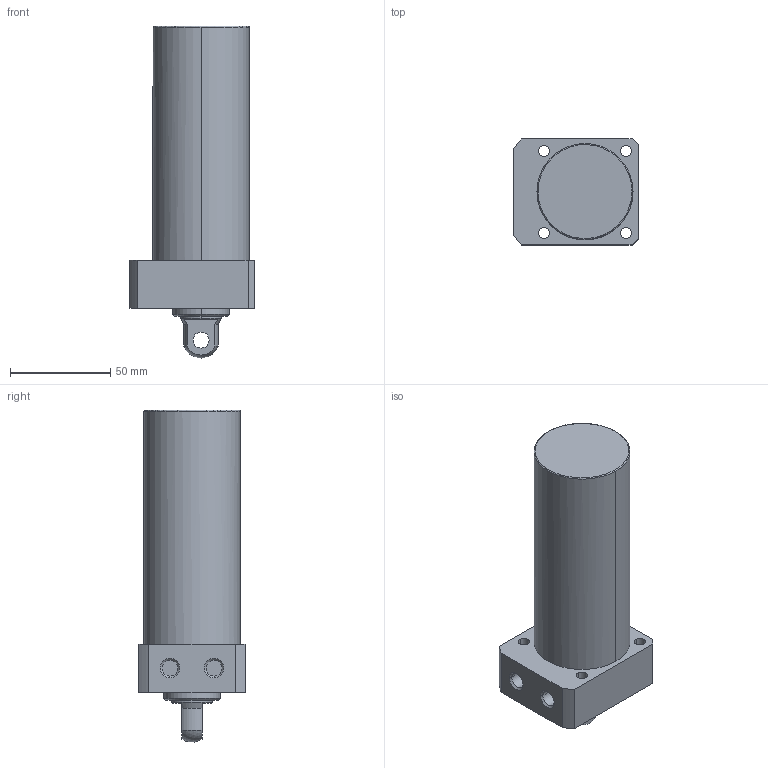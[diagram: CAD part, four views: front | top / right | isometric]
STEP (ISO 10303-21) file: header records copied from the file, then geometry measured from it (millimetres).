
FILE_DESCRIPTION((' '),'2;1');
FILE_NAME( 'TLLR-048CP-090.STEP.stp', '2025-10-24T16:34:39', (' '), ('--- Datakit www.datakit.com---'), ' Datakit CrossCadWare V2024.1 Dec 21 2023', 'Mastercam 2025', ' ');
FILE_SCHEMA(('AUTOMOTIVE_DESIGN { 1 0 10303 214 1 1 1 1 }'));
Length unit declared in the file: millimetre
Products named in the file (1): TLLR-048CP-090
Bounding box: 62 x 53 x 165.94 mm (x, y, z)
Volume: 291205.8 mm3; surface area: 33049.7 mm2
Topology: 1 solids, 1 shells, 57 faces, 164 edges, 116 vertices
Faces by surface type: cylinder 28, plane 18, cone 8, torus 2, sphere 1
Entity records: 2006 total; most frequent: DIRECTION 378, CARTESIAN_POINT 350, ORIENTED_EDGE 328, EDGE_CURVE 164, AXIS2_PLACEMENT_3D 160, VERTEX_POINT 116, CIRCLE 102, EDGE_LOOP 74
